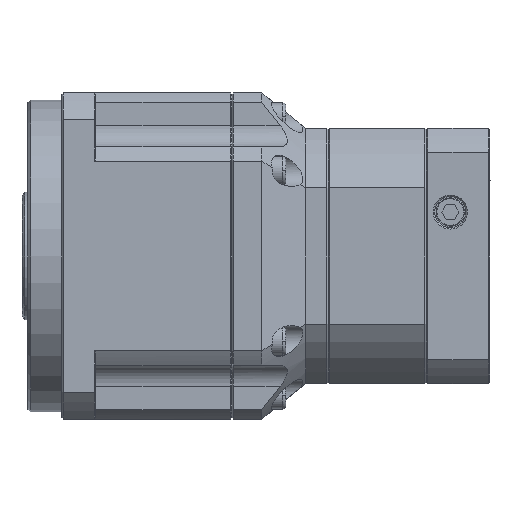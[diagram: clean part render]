
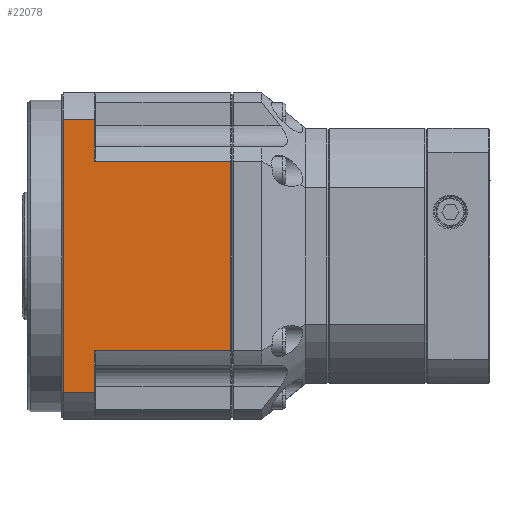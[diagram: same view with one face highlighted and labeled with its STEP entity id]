
A CAD part, left-side view. The second image highlights one B-rep face of the part: STEP entity #22078.
In plain terms, the highlighted planar face has unit normal (1, 0, 0).
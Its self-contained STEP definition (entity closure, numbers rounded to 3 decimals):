
#809 = CARTESIAN_POINT ( 'NONE',  ( -57.5, -34.111, 48.153 ) ) ;
#1193 = VERTEX_POINT ( 'NONE', #44014 ) ;
#2589 = AXIS2_PLACEMENT_3D ( 'NONE', #809, #82064, #41713 ) ;
#2782 = VECTOR ( 'NONE', #69640, 1000. ) ;
#5455 = ORIENTED_EDGE ( 'NONE', *, *, #20241, .F. ) ;
#6379 = CARTESIAN_POINT ( 'NONE',  ( -57.5, -34.111, -33.407 ) ) ;
#6502 = CARTESIAN_POINT ( 'NONE',  ( -57.5, 13.889, 33.407 ) ) ;
#7639 = DIRECTION ( 'NONE',  ( 0., 0., 1. ) ) ;
#7735 = DIRECTION ( 'NONE',  ( 0., 0., -1. ) ) ;
#7947 = CARTESIAN_POINT ( 'NONE',  ( -57.5, -4.611, 48.153 ) ) ;
#10007 = LINE ( 'NONE', #13337, #61688 ) ;
#11036 = VECTOR ( 'NONE', #48227, 1000. ) ;
#13057 = VECTOR ( 'NONE', #19694, 1000. ) ;
#13337 = CARTESIAN_POINT ( 'NONE',  ( -57.5, 24.889, 0. ) ) ;
#15308 = VERTEX_POINT ( 'NONE', #6502 ) ;
#15699 = ORIENTED_EDGE ( 'NONE', *, *, #65429, .F. ) ;
#19694 = DIRECTION ( 'NONE',  ( 0., 1., 0. ) ) ;
#20241 = EDGE_CURVE ( 'NONE', #1193, #77810, #48943, .T. ) ;
#20762 = VERTEX_POINT ( 'NONE', #23321 ) ;
#22078 = ADVANCED_FACE ( 'NONE', ( #76074 ), #35006, .T. ) ;
#23321 = CARTESIAN_POINT ( 'NONE',  ( -57.5, -34.111, 33.407 ) ) ;
#23652 = EDGE_CURVE ( 'NONE', #20762, #15308, #48858, .T. ) ;
#29289 = CARTESIAN_POINT ( 'NONE',  ( -57.5, 13.889, 0. ) ) ;
#30133 = LINE ( 'NONE', #30741, #79636 ) ;
#30741 = CARTESIAN_POINT ( 'NONE',  ( -57.5, 19.389, -48.153 ) ) ;
#34149 = CARTESIAN_POINT ( 'NONE',  ( -57.5, 24.889, -48.153 ) ) ;
#35006 = PLANE ( 'NONE',  #2589 ) ;
#35378 = VECTOR ( 'NONE', #64228, 1000. ) ;
#37430 = VECTOR ( 'NONE', #7639, 1000. ) ;
#38599 = EDGE_LOOP ( 'NONE', ( #86761, #43124, #60541, #56833, #15699, #73339, #84302, #5455 ) ) ;
#41094 = VERTEX_POINT ( 'NONE', #34149 ) ;
#41713 = DIRECTION ( 'NONE',  ( 0., 0., -1. ) ) ;
#43124 = ORIENTED_EDGE ( 'NONE', *, *, #23652, .F. ) ;
#44014 = CARTESIAN_POINT ( 'NONE',  ( -57.5, 13.889, 48.153 ) ) ;
#44923 = VECTOR ( 'NONE', #69352, 1000. ) ;
#46992 = LINE ( 'NONE', #62293, #44923 ) ;
#48227 = DIRECTION ( 'NONE',  ( 0., 1., 0. ) ) ;
#48482 = VERTEX_POINT ( 'NONE', #86151 ) ;
#48858 = LINE ( 'NONE', #60023, #13057 ) ;
#48943 = LINE ( 'NONE', #7947, #11036 ) ;
#50340 = CARTESIAN_POINT ( 'NONE',  ( -57.5, -34.111, 0. ) ) ;
#52732 = CARTESIAN_POINT ( 'NONE',  ( -57.5, 13.889, -48.153 ) ) ;
#53247 = LINE ( 'NONE', #50340, #35378 ) ;
#54759 = CARTESIAN_POINT ( 'NONE',  ( -57.5, 13.889, 0. ) ) ;
#56683 = VERTEX_POINT ( 'NONE', #52732 ) ;
#56833 = ORIENTED_EDGE ( 'NONE', *, *, #61815, .F. ) ;
#57456 = LINE ( 'NONE', #54759, #37430 ) ;
#60023 = CARTESIAN_POINT ( 'NONE',  ( -57.5, -4.611, 33.407 ) ) ;
#60541 = ORIENTED_EDGE ( 'NONE', *, *, #77421, .F. ) ;
#61688 = VECTOR ( 'NONE', #7735, 1000. ) ;
#61815 = EDGE_CURVE ( 'NONE', #48482, #82205, #46992, .T. ) ;
#61838 = EDGE_CURVE ( 'NONE', #15308, #1193, #72361, .T. ) ;
#62293 = CARTESIAN_POINT ( 'NONE',  ( -57.5, -4.611, -33.407 ) ) ;
#64228 = DIRECTION ( 'NONE',  ( 0., 0., 1. ) ) ;
#64715 = EDGE_CURVE ( 'NONE', #56683, #41094, #30133, .T. ) ;
#65429 = EDGE_CURVE ( 'NONE', #56683, #48482, #57456, .T. ) ;
#66239 = EDGE_CURVE ( 'NONE', #77810, #41094, #10007, .T. ) ;
#69352 = DIRECTION ( 'NONE',  ( 0., -1., 0. ) ) ;
#69640 = DIRECTION ( 'NONE',  ( 0., 0., 1. ) ) ;
#72361 = LINE ( 'NONE', #29289, #2782 ) ;
#73339 = ORIENTED_EDGE ( 'NONE', *, *, #64715, .T. ) ;
#74462 = CARTESIAN_POINT ( 'NONE',  ( -57.5, 24.889, 48.153 ) ) ;
#76074 = FACE_OUTER_BOUND ( 'NONE', #38599, .T. ) ;
#77421 = EDGE_CURVE ( 'NONE', #82205, #20762, #53247, .T. ) ;
#77810 = VERTEX_POINT ( 'NONE', #74462 ) ;
#77863 = DIRECTION ( 'NONE',  ( 0., 1., 0. ) ) ;
#79636 = VECTOR ( 'NONE', #77863, 1000. ) ;
#82064 = DIRECTION ( 'NONE',  ( 1., 0., 0. ) ) ;
#82205 = VERTEX_POINT ( 'NONE', #6379 ) ;
#84302 = ORIENTED_EDGE ( 'NONE', *, *, #66239, .F. ) ;
#86151 = CARTESIAN_POINT ( 'NONE',  ( -57.5, 13.889, -33.407 ) ) ;
#86761 = ORIENTED_EDGE ( 'NONE', *, *, #61838, .F. ) ;
